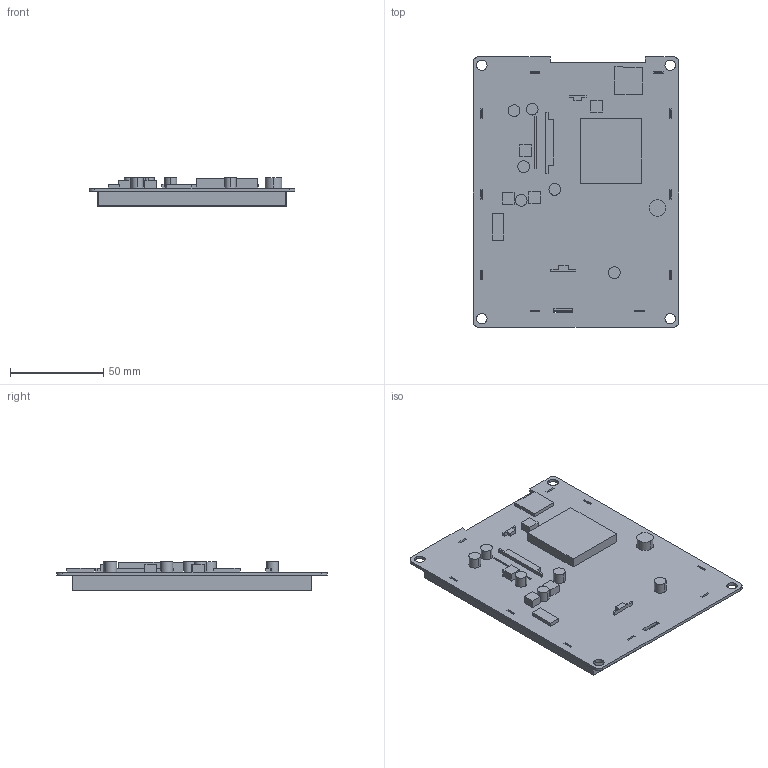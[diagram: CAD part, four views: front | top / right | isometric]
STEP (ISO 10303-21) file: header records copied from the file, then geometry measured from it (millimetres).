
FILE_DESCRIPTION((''),'2;1');
FILE_NAME('PRT0001','2019-08-14T',('Administrator'),(''),'PRO/ENGINEER BY PARAMETRIC TECHNOLOGY CORPORATION, 2011310','PRO/ENGINEER BY PARAMETRIC TECHNOLOGY CORPORATION, 2011310','');
FILE_SCHEMA(('CONFIG_CONTROL_DESIGN','SHAPE_APPEARANCE_LAYERS_GROUPS'));
Length unit declared in the file: millimetre
Products named in the file (1): PRT0001
Bounding box: 110.24 x 144.78 x 15.8 mm (x, y, z)
Surface area: 76808.5 mm2 (no closed solid volume)
Topology: 0 solids, 3 shells, 187 faces, 484 edges, 324 vertices
Faces by surface type: plane 157, cylinder 30
Entity records: 7106 total; most frequent: CARTESIAN_POINT 992, ORIENTED_EDGE 960, DIRECTION 920, EDGE_CURVE 480, VECTOR 424, LINE 424, VERTEX_POINT 320, AXIS2_PLACEMENT_3D 248
